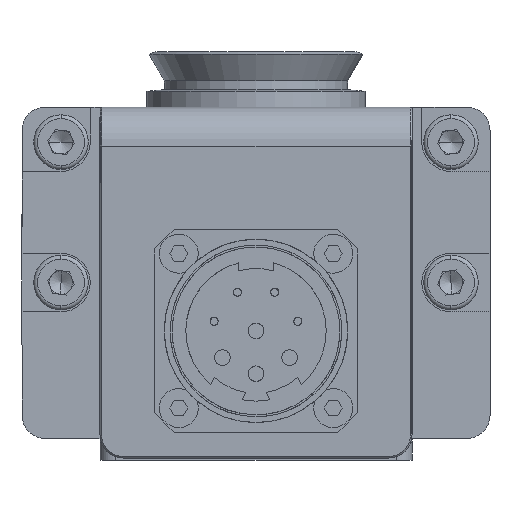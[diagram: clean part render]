
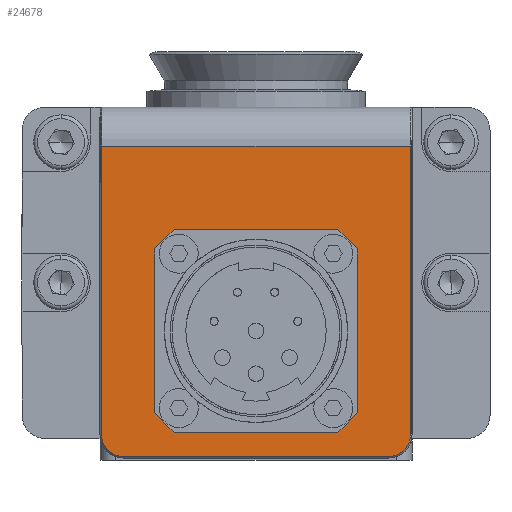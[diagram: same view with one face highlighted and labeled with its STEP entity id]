
A CAD part, front view. The second image highlights one B-rep face of the part: STEP entity #24678.
In plain terms, the highlighted planar face has unit normal (0, -1, 0).
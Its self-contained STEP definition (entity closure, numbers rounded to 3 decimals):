
#24 = EDGE_CURVE ( 'NONE', #9573, #6719, #26245, .T. ) ;
#662 = ORIENTED_EDGE ( 'NONE', *, *, #10936, .F. ) ;
#711 = VECTOR ( 'NONE', #6787, 1000. ) ;
#841 = CARTESIAN_POINT ( 'NONE',  ( -47.794, -29.743, 14.1 ) ) ;
#1038 = DIRECTION ( 'NONE',  ( -0.707, 0., -0.707 ) ) ;
#1124 = CARTESIAN_POINT ( 'NONE',  ( -14.994, -29.743, -9.6 ) ) ;
#1295 = CARTESIAN_POINT ( 'NONE',  ( -40.994, -29.743, -20.1 ) ) ;
#2146 = DIRECTION ( 'NONE',  ( 0., 0., -1. ) ) ;
#2489 = LINE ( 'NONE', #1124, #32511 ) ;
#2658 = DIRECTION ( 'NONE',  ( -1., 0., 0. ) ) ;
#2960 = EDGE_CURVE ( 'NONE', #3542, #11330, #2489, .T. ) ;
#3069 = EDGE_CURVE ( 'NONE', #6719, #3637, #29819, .T. ) ;
#3542 = VERTEX_POINT ( 'NONE', #29365 ) ;
#3637 = VERTEX_POINT ( 'NONE', #14442 ) ;
#3721 = DIRECTION ( 'NONE',  ( 0., 0., 1. ) ) ;
#3812 = EDGE_CURVE ( 'NONE', #19644, #34258, #24069, .T. ) ;
#4043 = EDGE_CURVE ( 'NONE', #3637, #26733, #25423, .T. ) ;
#4402 = VERTEX_POINT ( 'NONE', #841 ) ;
#4752 = LINE ( 'NONE', #31167, #11532 ) ;
#5179 = CARTESIAN_POINT ( 'NONE',  ( -16.244, -29.743, -21.35 ) ) ;
#6330 = ORIENTED_EDGE ( 'NONE', *, *, #2960, .F. ) ;
#6368 = ORIENTED_EDGE ( 'NONE', *, *, #3812, .F. ) ;
#6528 = CARTESIAN_POINT ( 'NONE',  ( -47.794, -29.743, -5.8 ) ) ;
#6632 = CARTESIAN_POINT ( 'NONE',  ( -8.194, -29.743, -5.8 ) ) ;
#6719 = VERTEX_POINT ( 'NONE', #25862 ) ;
#6785 = CARTESIAN_POINT ( 'NONE',  ( -47.794, -29.743, 14.1 ) ) ;
#6787 = DIRECTION ( 'NONE',  ( 0., 0., -1. ) ) ;
#6937 = VECTOR ( 'NONE', #25753, 1000. ) ;
#7556 = CARTESIAN_POINT ( 'NONE',  ( -44.994, -29.743, -25.7 ) ) ;
#7720 = VECTOR ( 'NONE', #25140, 1000. ) ;
#7890 = EDGE_CURVE ( 'NONE', #13987, #34909, #31657, .T. ) ;
#8317 = ORIENTED_EDGE ( 'NONE', *, *, #24, .T. ) ;
#8399 = LINE ( 'NONE', #6528, #711 ) ;
#8416 = CARTESIAN_POINT ( 'NONE',  ( -17.494, -29.743, -22.6 ) ) ;
#8426 = VECTOR ( 'NONE', #2658, 1000. ) ;
#8631 = ORIENTED_EDGE ( 'NONE', *, *, #3069, .T. ) ;
#9065 = VECTOR ( 'NONE', #25284, 1000. ) ;
#9208 = CARTESIAN_POINT ( 'NONE',  ( -44.994, -29.743, -22.9 ) ) ;
#9521 = CARTESIAN_POINT ( 'NONE',  ( -38.494, -29.743, 3.4 ) ) ;
#9573 = VERTEX_POINT ( 'NONE', #7556 ) ;
#9592 = VERTEX_POINT ( 'NONE', #36772 ) ;
#9838 = EDGE_CURVE ( 'NONE', #4402, #14344, #8399, .T. ) ;
#10355 = CARTESIAN_POINT ( 'NONE',  ( -10.994, -29.743, -22.9 ) ) ;
#10475 = VERTEX_POINT ( 'NONE', #1295 ) ;
#10936 = EDGE_CURVE ( 'NONE', #9592, #10475, #4752, .T. ) ;
#11330 = VERTEX_POINT ( 'NONE', #13292 ) ;
#11532 = VECTOR ( 'NONE', #2146, 1000. ) ;
#11720 = CARTESIAN_POINT ( 'NONE',  ( -16.244, -29.743, 2.15 ) ) ;
#12128 = DIRECTION ( 'NONE',  ( 0., 0., 1. ) ) ;
#12595 = EDGE_CURVE ( 'NONE', #26733, #4402, #29232, .T. ) ;
#12619 = DIRECTION ( 'NONE',  ( 0., 0., -1. ) ) ;
#13277 = DIRECTION ( 'NONE',  ( 0., 0., 1. ) ) ;
#13292 = CARTESIAN_POINT ( 'NONE',  ( -14.994, -29.743, 0.9 ) ) ;
#13339 = ORIENTED_EDGE ( 'NONE', *, *, #21257, .F. ) ;
#13987 = VERTEX_POINT ( 'NONE', #27943 ) ;
#14180 = CARTESIAN_POINT ( 'NONE',  ( -27.994, -29.743, 14.1 ) ) ;
#14344 = VERTEX_POINT ( 'NONE', #24182 ) ;
#14442 = CARTESIAN_POINT ( 'NONE',  ( -8.194, -29.743, -22.9 ) ) ;
#14637 = DIRECTION ( 'NONE',  ( -0.707, 0., 0.707 ) ) ;
#15948 = EDGE_LOOP ( 'NONE', ( #662, #36903, #17218, #25415, #6330, #13339, #6368, #36600 ) ) ;
#16110 = ORIENTED_EDGE ( 'NONE', *, *, #4043, .T. ) ;
#16480 = VECTOR ( 'NONE', #14637, 1000. ) ;
#17218 = ORIENTED_EDGE ( 'NONE', *, *, #7890, .F. ) ;
#17338 = AXIS2_PLACEMENT_3D ( 'NONE', #9208, #29598, #12128 ) ;
#17705 = VECTOR ( 'NONE', #3721, 1000. ) ;
#18478 = DIRECTION ( 'NONE',  ( 0., 0., 1. ) ) ;
#18519 = VECTOR ( 'NONE', #34423, 1000. ) ;
#18554 = ORIENTED_EDGE ( 'NONE', *, *, #33945, .T. ) ;
#19644 = VERTEX_POINT ( 'NONE', #28317 ) ;
#19767 = DIRECTION ( 'NONE',  ( 0.707, 0., 0.707 ) ) ;
#20947 = CARTESIAN_POINT ( 'NONE',  ( -8.194, -29.743, 14.1 ) ) ;
#21257 = EDGE_CURVE ( 'NONE', #34258, #3542, #23879, .T. ) ;
#21307 = CIRCLE ( 'NONE', #17338, 2.8 ) ;
#21429 = LINE ( 'NONE', #35824, #28293 ) ;
#22361 = CARTESIAN_POINT ( 'NONE',  ( -39.744, -29.743, -21.35 ) ) ;
#22968 = CARTESIAN_POINT ( 'NONE',  ( -27.994, -29.743, 3.4 ) ) ;
#23602 = LINE ( 'NONE', #22361, #9065 ) ;
#23822 = AXIS2_PLACEMENT_3D ( 'NONE', #10355, #30734, #13277 ) ;
#23879 = LINE ( 'NONE', #5179, #36621 ) ;
#24069 = LINE ( 'NONE', #28235, #7720 ) ;
#24182 = CARTESIAN_POINT ( 'NONE',  ( -47.794, -29.743, -22.9 ) ) ;
#24232 = EDGE_CURVE ( 'NONE', #11330, #13987, #31088, .T. ) ;
#24678 = ADVANCED_FACE ( 'NONE', ( #37395, #29712 ), #27123, .T. ) ;
#24971 = EDGE_LOOP ( 'NONE', ( #18554, #8317, #8631, #16110, #27113, #29289 ) ) ;
#25140 = DIRECTION ( 'NONE',  ( 1., 0., 0. ) ) ;
#25284 = DIRECTION ( 'NONE',  ( 0.707, 0., -0.707 ) ) ;
#25346 = EDGE_CURVE ( 'NONE', #34909, #9592, #21429, .T. ) ;
#25415 = ORIENTED_EDGE ( 'NONE', *, *, #24232, .F. ) ;
#25423 = LINE ( 'NONE', #6632, #17705 ) ;
#25753 = DIRECTION ( 'NONE',  ( -1., 0., 0. ) ) ;
#25862 = CARTESIAN_POINT ( 'NONE',  ( -10.994, -29.743, -25.7 ) ) ;
#26245 = LINE ( 'NONE', #34556, #18519 ) ;
#26733 = VERTEX_POINT ( 'NONE', #20947 ) ;
#27113 = ORIENTED_EDGE ( 'NONE', *, *, #12595, .T. ) ;
#27123 = PLANE ( 'NONE',  #35215 ) ;
#27943 = CARTESIAN_POINT ( 'NONE',  ( -17.494, -29.743, 3.4 ) ) ;
#28235 = CARTESIAN_POINT ( 'NONE',  ( -27.994, -29.743, -22.6 ) ) ;
#28293 = VECTOR ( 'NONE', #1038, 1000. ) ;
#28317 = CARTESIAN_POINT ( 'NONE',  ( -38.494, -29.743, -22.6 ) ) ;
#29232 = LINE ( 'NONE', #14180, #6937 ) ;
#29289 = ORIENTED_EDGE ( 'NONE', *, *, #9838, .T. ) ;
#29365 = CARTESIAN_POINT ( 'NONE',  ( -14.994, -29.743, -20.1 ) ) ;
#29598 = DIRECTION ( 'NONE',  ( 0., -1., 0. ) ) ;
#29712 = FACE_OUTER_BOUND ( 'NONE', #24971, .T. ) ;
#29819 = CIRCLE ( 'NONE', #23822, 2.8 ) ;
#30085 = DIRECTION ( 'NONE',  ( 0., -1., 0. ) ) ;
#30734 = DIRECTION ( 'NONE',  ( 0., -1., 0. ) ) ;
#31088 = LINE ( 'NONE', #11720, #16480 ) ;
#31167 = CARTESIAN_POINT ( 'NONE',  ( -40.994, -29.743, -9.6 ) ) ;
#31657 = LINE ( 'NONE', #22968, #8426 ) ;
#31989 = EDGE_CURVE ( 'NONE', #10475, #19644, #23602, .T. ) ;
#32511 = VECTOR ( 'NONE', #18478, 1000. ) ;
#33945 = EDGE_CURVE ( 'NONE', #14344, #9573, #21307, .T. ) ;
#34258 = VERTEX_POINT ( 'NONE', #8416 ) ;
#34423 = DIRECTION ( 'NONE',  ( 1., 0., 0. ) ) ;
#34556 = CARTESIAN_POINT ( 'NONE',  ( -27.994, -29.743, -25.7 ) ) ;
#34909 = VERTEX_POINT ( 'NONE', #9521 ) ;
#35215 = AXIS2_PLACEMENT_3D ( 'NONE', #6785, #30085, #12619 ) ;
#35824 = CARTESIAN_POINT ( 'NONE',  ( -39.744, -29.743, 2.15 ) ) ;
#36600 = ORIENTED_EDGE ( 'NONE', *, *, #31989, .F. ) ;
#36621 = VECTOR ( 'NONE', #19767, 1000. ) ;
#36772 = CARTESIAN_POINT ( 'NONE',  ( -40.994, -29.743, 0.9 ) ) ;
#36903 = ORIENTED_EDGE ( 'NONE', *, *, #25346, .F. ) ;
#37395 = FACE_BOUND ( 'NONE', #15948, .T. ) ;
